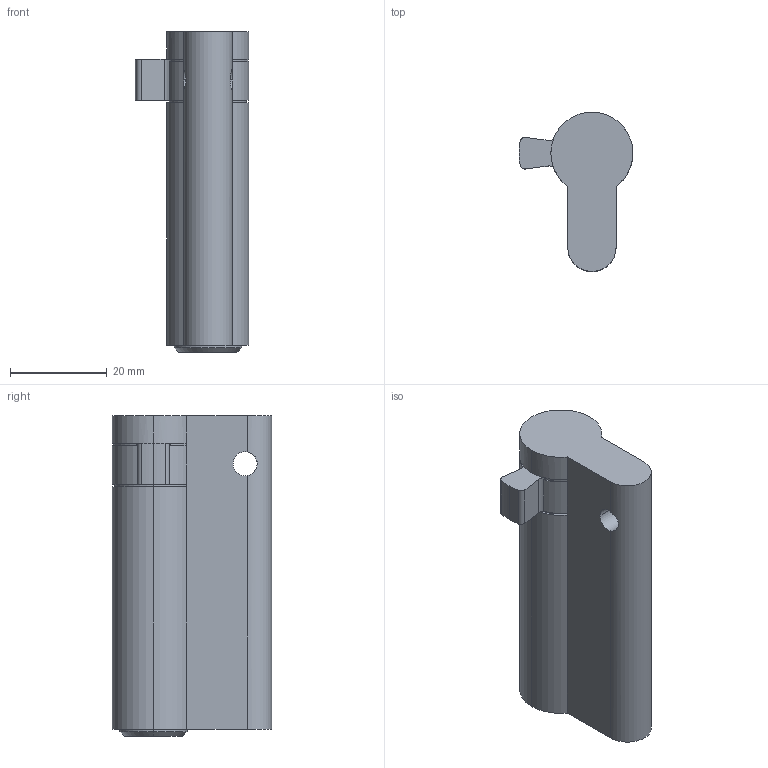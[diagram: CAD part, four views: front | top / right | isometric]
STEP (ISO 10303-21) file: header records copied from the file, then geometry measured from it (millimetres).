
FILE_DESCRIPTION (( 'STEP AP214' ), '1' );
FILE_NAME ('TPL-H-EU-511-R 29Oct2024.STEP', '2024-10-29T22:16:09', ( '' ), ( '' ), 'SwSTEP 2.0', 'SolidWorks 2023', '' );
FILE_SCHEMA (( 'AUTOMOTIVE_DESIGN' ));
Length unit declared in the file: millimetre
Products named in the file (1): TPL-H-EU-511-R 29Oct2024
Bounding box: 23.6 x 33 x 66.5 mm (x, y, z)
Volume: 24801.7 mm3; surface area: 7067.9 mm2
Topology: 1 solids, 1 shells, 46 faces, 127 edges, 80 vertices
Faces by surface type: cylinder 27, plane 16, cone 3
Entity records: 1575 total; most frequent: CARTESIAN_POINT 324, DIRECTION 278, ORIENTED_EDGE 254, EDGE_CURVE 127, AXIS2_PLACEMENT_3D 110, VERTEX_POINT 80, CIRCLE 63, LINE 58
